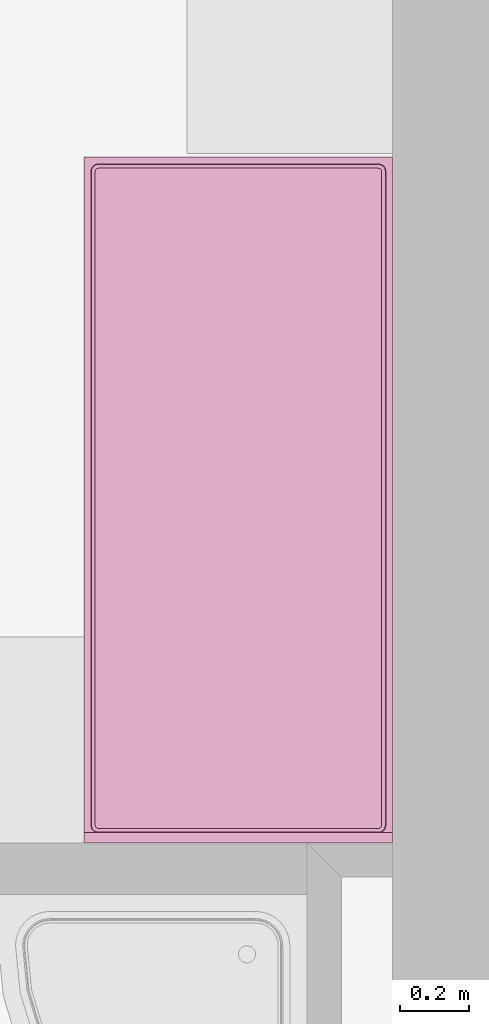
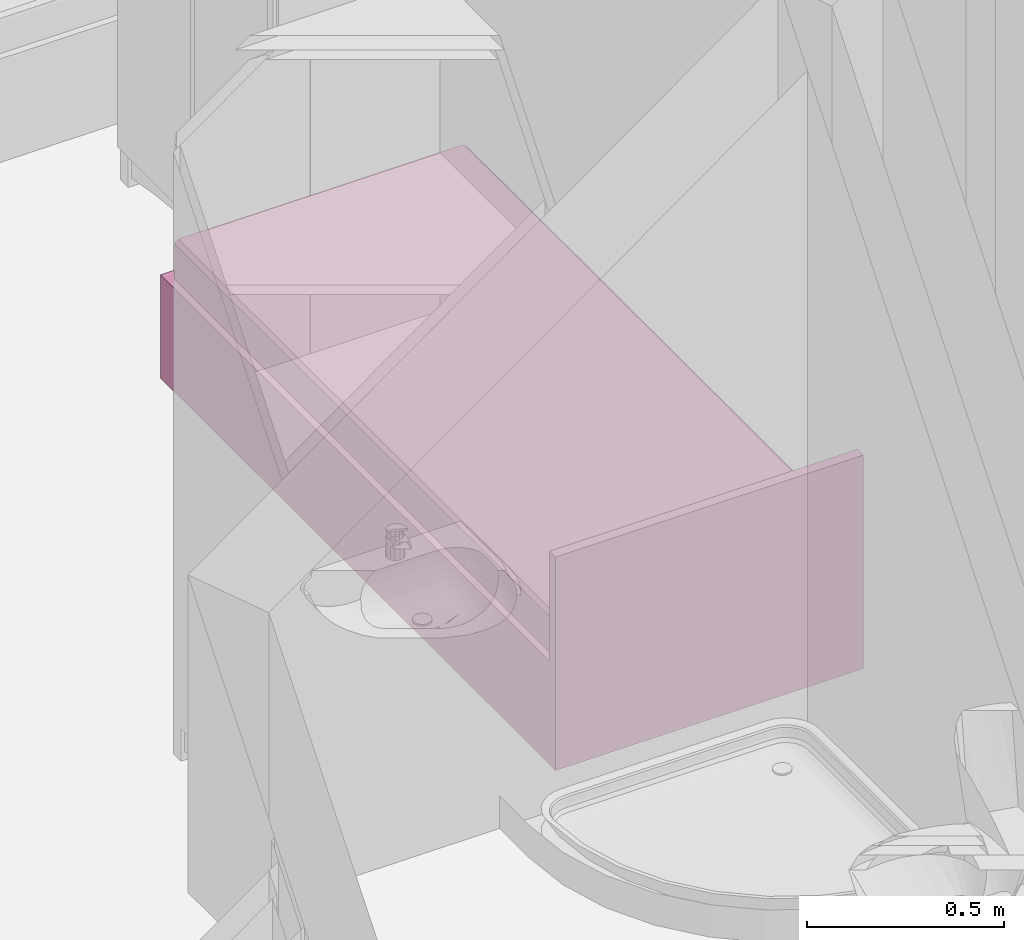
# One storey, part 141 of 172: 1 furnishing.
"""IFC2X3 building model written with IfcOpenShell, lengths in millimetres."""

import ifcopenshell
import ifcopenshell.guid

model = None  # the IFC model being written
_history = None  # IfcOwnerHistory: only IFC2X3 demands one
_inside = {}  # id of a spatial element -> (the spatial element, [elements in it])
_under = {}  # id of a project, library or spatial element -> (it, [spatial elements below it])
_declared = {}  # id of a project -> (the project, [libraries it declares])
_typed = {}  # id of a type object -> (the type object, [elements of that type])
_made_of = {}  # id of a material, layer set ... -> (it, [elements and type objects made of it])


def new_model(schema):
    """Start an empty IFC model of exactly this schema.

    Asked for "IFC4X3", IfcOpenShell would pick the latest addendum, in which some entities
    have other attributes; the version numbers below select the first issue.
    IFC2X3 requires an IfcOwnerHistory on every rooted entity: one is made here for all.
    """
    global model, _history
    if schema == "IFC4X3":
        model = ifcopenshell.file(schema_version=(4, 3, 0, 0))
    else:
        model = ifcopenshell.file(schema=schema)
    _inside.clear()
    _under.clear()
    _declared.clear()
    _typed.clear()
    _made_of.clear()
    _history = None
    if model.schema == "IFC2X3":
        org = make("IfcOrganization", Name="unknown")
        user = make(
            "IfcPersonAndOrganization",
            ThePerson=make("IfcPerson", FamilyName="unknown"),
            TheOrganization=org,
        )
        app = make(
            "IfcApplication",
            ApplicationDeveloper=org,
            Version="unknown",
            ApplicationFullName="unknown",
            ApplicationIdentifier="unknown",
        )
        _history = make(
            "IfcOwnerHistory",
            OwningUser=user,
            OwningApplication=app,
            ChangeAction="ADDED",
            CreationDate=0,
        )
    return model


def make(cls, **values):
    """One entity of the class cls with the attributes given. An attribute that is None is left unset."""
    return model.create_entity(
        cls, **{name: value for name, value in values.items() if value is not None}
    )


def entity(cls, *values):
    """Any entity or typed value of the class cls, its attributes in the order of the schema. None: left unset."""
    e = model.create_entity(cls)
    for i, value in enumerate(values):
        if value is not None:
            e[i] = value
    return e


def rooted(cls, **values):
    """An entity with a GlobalId (a new one), such as an element, a storey or a relation."""
    return make(cls, GlobalId=ifcopenshell.guid.new(), OwnerHistory=_history, **values)


def si_unit(unit_type, name, prefix=None):
    """IfcSIUnit, for example si_unit("LENGTHUNIT", "METRE", prefix="MILLI")."""
    return make("IfcSIUnit", UnitType=unit_type, Prefix=prefix, Name=name)


def converted_unit(unit_type, name, factor, base, dimensions=None, offset=None):
    """IfcConversionBasedUnit, such as the inch: factor (a typed value) times the base unit."""
    return make(
        "IfcConversionBasedUnit"
        if offset is None
        else "IfcConversionBasedUnitWithOffset",
        ConversionOffset=offset,
        Dimensions=None
        if dimensions is None
        else entity("IfcDimensionalExponents", *dimensions),
        UnitType=unit_type,
        Name=name,
        ConversionFactor=make(
            "IfcMeasureWithUnit", ValueComponent=factor, UnitComponent=base
        ),
    )


def money_unit(currency):
    """IfcMonetaryUnit."""
    return make("IfcMonetaryUnit", Currency=currency)


def assignment(units):
    """IfcUnitAssignment: the units of a project."""
    return None if units is None else make("IfcUnitAssignment", Units=units)


def point(xyz):
    """IfcCartesianPoint."""
    return None if xyz is None else make("IfcCartesianPoint", Coordinates=xyz)


def direction(xyz):
    """IfcDirection."""
    return None if xyz is None else make("IfcDirection", DirectionRatios=xyz)


def frame(location, z_axis=None, x_axis=None):
    """IfcAxis2Placement3D, a coordinate frame: its origin and axes. An axis left out is left unset."""
    return make(
        "IfcAxis2Placement3D",
        Location=point(location),
        Axis=direction(z_axis),
        RefDirection=direction(x_axis),
    )


def origin_with_axes():
    """The frame at (0, 0, 0) with the z axis (0, 0, 1) and the x axis (1, 0, 0) written out."""
    return frame((0.0, 0.0, 0.0), z_axis=(0.0, 0.0, 1.0), x_axis=(1.0, 0.0, 0.0))


def place(relative_to, where):
    """IfcLocalPlacement: puts the frame where relative to a parent placement (None: the world)."""
    return make(
        "IfcLocalPlacement", PlacementRelTo=relative_to, RelativePlacement=where
    )


def context(
    kind, dimensions, precision=None, world=None, true_north=None, identifier=None
):
    """IfcGeometricRepresentationContext, for example the 3D "Model" context."""
    return make(
        "IfcGeometricRepresentationContext",
        ContextIdentifier=identifier,
        ContextType=kind,
        CoordinateSpaceDimension=dimensions,
        Precision=precision,
        WorldCoordinateSystem=world,
        TrueNorth=true_north,
    )


def subcontext(parent, identifier, kind, view, scale=None):
    """IfcGeometricRepresentationSubContext, for example "Body" below "Model"."""
    return make(
        "IfcGeometricRepresentationSubContext",
        ContextIdentifier=identifier,
        ContextType=kind,
        ParentContext=parent,
        TargetScale=scale,
        TargetView=view,
    )


def project(units=None, contexts=None):
    """IfcProject with its units and contexts."""
    return rooted(
        "IfcProject",
        Name="project",
        RepresentationContexts=contexts,
        UnitsInContext=assignment(units),
    )


def spatial(cls, under=None, at=None, **own):
    """A site, building, storey or space (cls), placed at a placement, below another one or the project."""
    s = rooted(cls, ObjectPlacement=at, **own)
    if under is not None:
        _under.setdefault(under.id(), (under, []))[1].append(s)
    return s


def faces_of(points, faces, orient=None, outer=None):
    """IfcFace entities. A face is a list of loops; a loop is a list of indices into points, from 0.

    orient and outer hold one flag for each loop. By default every Orientation is true, the
    first loop of a face is its IfcFaceOuterBound and the others are IfcFaceBound.
    """
    made = []
    for i, loops in enumerate(faces):
        bounds = []
        for j, loop in enumerate(loops):
            is_outer = j == 0 if outer is None else outer[i][j]
            bounds.append(
                make(
                    "IfcFaceOuterBound" if is_outer else "IfcFaceBound",
                    Bound=make("IfcPolyLoop", Polygon=[points[k] for k in loop]),
                    Orientation=True if orient is None else orient[i][j],
                )
            )
        made.append(make("IfcFace", Bounds=bounds))
    return made


def faceted_brep(points, faces, orient=None, outer=None, voids=None):
    """IfcFacetedBrep: a solid bounded by flat faces; with voids (closed shells), ...WithVoids."""
    shared = [point(p) for p in points]
    hull = make("IfcClosedShell", CfsFaces=faces_of(shared, faces, orient, outer))
    if voids is None:
        return make("IfcFacetedBrep", Outer=hull)
    return make(
        "IfcFacetedBrepWithVoids",
        Outer=hull,
        Voids=[
            make(cls, CfsFaces=faces_of(shared, fs, o, b)) for cls, fs, o, b in voids
        ],
    )


def shape(context_of_items, identifier, shape_type, items):
    """IfcShapeRepresentation: the items that make up one representation, for example the "Body"."""
    return make(
        "IfcShapeRepresentation",
        ContextOfItems=context_of_items,
        RepresentationIdentifier=identifier,
        RepresentationType=shape_type,
        Items=items,
    )


def source(mapping_origin, context_of_items, identifier, shape_type, items):
    """IfcRepresentationMap: a shape defined once, which mapped items show again and again."""
    return make(
        "IfcRepresentationMap",
        MappingOrigin=mapping_origin,
        MappedRepresentation=shape(context_of_items, identifier, shape_type, items),
    )


def transform(
    local_origin,
    x_axis=None,
    y_axis=None,
    z_axis=None,
    scale=None,
    scale2=None,
    scale3=None,
    uniform=True,
):
    """IfcCartesianTransformationOperator3D, or its non-uniform kind. x_axis, y_axis, z_axis: its Axis1, 2, 3."""
    if uniform:
        return make(
            "IfcCartesianTransformationOperator3D",
            Axis1=direction(x_axis),
            Axis2=direction(y_axis),
            LocalOrigin=point(local_origin),
            Scale=scale,
            Axis3=direction(z_axis),
        )
    return make(
        "IfcCartesianTransformationOperator3DnonUniform",
        Axis1=direction(x_axis),
        Axis2=direction(y_axis),
        LocalOrigin=point(local_origin),
        Scale=scale,
        Axis3=direction(z_axis),
        Scale2=scale2,
        Scale3=scale3,
    )


def mapped(mapping_source, mapping_target):
    """IfcMappedItem: shows the shape of a source again, moved by a transform."""
    return make(
        "IfcMappedItem", MappingSource=mapping_source, MappingTarget=mapping_target
    )


def material(Name=None, Category=None):
    """IfcMaterial."""
    return make("IfcMaterial", Name=Name, Category=Category)


def material_list(materials):
    """IfcMaterialList."""
    return make("IfcMaterialList", Materials=materials)


def made_of(thing, what):
    """Note that an element or type object is made of a material, layer set ...; save() writes the relation."""
    if what is not None:
        _made_of.setdefault(what.id(), (what, []))[1].append(thing)
    return thing


def type_object(cls, material=None, **own):
    """A type object (cls), such as IfcWallType, which elements share."""
    return made_of(rooted(cls, **own), material)


def element(
    cls,
    number,
    at=None,
    inside=None,
    cuts=None,
    type_object=None,
    material=None,
    context=None,
    identifier="Body",
    shape_type=None,
    held_by="IfcProductDefinitionShape",
    body=None,
    shapes=None,
    **own,
):
    """One element of the class cls, such as IfcWall. Its Tag is "e" and its number.

    at: its placement. inside: the storey or other place that contains it. cuts: it is an
    opening in that element (IfcRelVoidsElement). A single representation is given by context,
    identifier, shape_type and body (its items); several are given by shapes. held_by: the class
    of the entity that holds the representations. save() writes the other relations.
    """
    e = rooted(cls, Tag="e%d" % number, ObjectPlacement=at, **own)
    if body is not None:
        shapes = [shape(context, identifier, shape_type, body)]
    if shapes is not None:
        e.Representation = make(held_by, Representations=shapes)
    if inside is not None:
        _inside.setdefault(inside.id(), (inside, []))[1].append(e)
    if cuts is not None:
        rooted(
            "IfcRelVoidsElement", RelatingBuildingElement=cuts, RelatedOpeningElement=e
        )
    if type_object is not None:
        _typed.setdefault(type_object.id(), (type_object, []))[1].append(e)
    return made_of(e, material)


def aggregate(whole, parts):
    """IfcRelAggregates: a whole, such as a stair, and the parts it consists of."""
    return rooted("IfcRelAggregates", RelatingObject=whole, RelatedObjects=parts)


def save(model, path):
    """Write the relations noted so far, then the file.

    IfcRelAggregates (storeys below a building ...), IfcRelContainedInSpatialStructure (elements
    in a storey), IfcRelDefinesByType, IfcRelAssociatesMaterial and IfcRelDeclares: one each for
    every whole, place, type object, material and project.
    """
    for whole, parts in _under.values():
        aggregate(whole, parts)
    for where, things in _inside.values():
        rooted(
            "IfcRelContainedInSpatialStructure",
            RelatedElements=things,
            RelatingStructure=where,
        )
    for kind, things in _typed.values():
        rooted("IfcRelDefinesByType", RelatedObjects=things, RelatingType=kind)
    for what, things in _made_of.values():
        rooted("IfcRelAssociatesMaterial", RelatedObjects=things, RelatingMaterial=what)
    for by, libraries in _declared.values():
        rooted("IfcRelDeclares", RelatingContext=by, RelatedDefinitions=libraries)
    model.write(path)


model = new_model("IFC2X3")

# Units and contexts
model_context = context("Model", 3, precision=1e-05, world=origin_with_axes(), true_north=direction((0.0, 1.0)))
body_context = subcontext(model_context, "Body", "Model", "MODEL_VIEW")
ifc_project = project(units=[si_unit("LENGTHUNIT", "METRE", prefix="MILLI"), si_unit("AREAUNIT", "SQUARE_METRE"), si_unit("VOLUMEUNIT", "CUBIC_METRE"), converted_unit("PLANEANGLEUNIT", "DEGREE", entity("IfcPlaneAngleMeasure", 0.0174532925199), si_unit("PLANEANGLEUNIT", "RADIAN"), dimensions=[0, 0, 0, 0, 0, 0, 0]), si_unit("SOLIDANGLEUNIT", "STERADIAN"), money_unit("USD"), converted_unit("TIMEUNIT", "Year", entity("IfcTimeMeasure", 31556926.0), si_unit("TIMEUNIT", "SECOND"), dimensions=[0, 0, 0, 0, 0, 0, 0]), si_unit("MASSUNIT", "GRAM"), si_unit("THERMODYNAMICTEMPERATUREUNIT", "DEGREE_CELSIUS"), si_unit("LUMINOUSINTENSITYUNIT", "LUMEN")], contexts=[model_context])

# Site, building, storey
site_placement = place(None, origin_with_axes())
site = spatial("IfcSite", under=ifc_project, at=site_placement, Name="Site", CompositionType="ELEMENT")
building_placement = place(site_placement, origin_with_axes())
building = spatial("IfcBuilding", under=site, at=building_placement, Name="Building", CompositionType="ELEMENT")
storey_placement = place(building_placement, frame((0.0, 0.0, 3200.0), z_axis=(0.0, 0.0, 1.0), x_axis=(1.0, 0.0, 0.0)))
storey = spatial("IfcBuildingStorey", under=building, at=storey_placement, Name="3KORRUS", CompositionType="ELEMENT", Elevation=3200.0)

# Furnishing
ifc_material = material(Name="Background")
ifc_material_list = material_list([ifc_material])
furnishing_element_type = type_object("IfcFurnishingElementType", Name="Bed 19")
shared_shape = source(origin_with_axes(), body_context, "Body", "Brep", [
    faceted_brep([(-900.0, 1970.0, 0.0), (-900.0, 2000.0, 0.0), (0.0, 2000.0, 0.0), (0.0, 1970.0, 0.0), (-900.0, 1970.0, 660.0), (-900.0, 2000.0, 660.0), (0.0, 2000.0, 660.0), (0.0, 1970.0, 660.0)], [[[0, 1, 2, 3]], [[0, 4, 5, 1]], [[1, 5, 6, 2]], [[2, 6, 7, 3]], [[3, 7, 4, 0]], [[7, 6, 5, 4]]]),
    faceted_brep([(-900.0, 0.0, 0.0), (-900.0, 1970.0, 0.0), (0.0, 1970.0, 0.0), (0.0, 0.0, 0.0), (-900.0, 0.0, 320.0), (-900.0, 1970.0, 320.0), (0.0, 1970.0, 320.0), (0.0, 0.0, 320.0)], [[[0, 1, 2, 3]], [[0, 4, 5, 1]], [[1, 5, 6, 2]], [[2, 6, 7, 3]], [[3, 7, 4, 0]], [[7, 6, 5, 4]]]),
    faceted_brep([(-905.0, 10.0, 30.0), (-905.0, 695.0, 30.0), (-900.0, 695.0, 30.0), (-900.0, 10.0, 30.0), (-905.0, 10.0, 290.0), (-905.0, 695.0, 290.0), (-900.0, 695.0, 290.0), (-900.0, 10.0, 290.0)], [[[0, 1, 2, 3]], [[0, 4, 5, 1]], [[1, 5, 6, 2]], [[2, 6, 7, 3]], [[3, 7, 4, 0]], [[7, 6, 5, 4]]]),
    faceted_brep([(-935.0, 307.5, 150.0), (-935.0, 397.5, 150.0), (-905.0, 397.5, 150.0), (-905.0, 307.5, 150.0), (-935.0, 307.5, 170.0), (-935.0, 397.5, 170.0), (-905.0, 397.5, 170.0), (-905.0, 307.5, 170.0)], [[[0, 1, 2, 3]], [[0, 4, 5, 1]], [[1, 5, 6, 2]], [[2, 6, 7, 3]], [[3, 7, 4, 0]], [[7, 6, 5, 4]]]),
    faceted_brep([(-905.0, 705.0, 30.0), (-905.0, 1390.0, 30.0), (-900.0, 1390.0, 30.0), (-900.0, 705.0, 30.0), (-905.0, 705.0, 290.0), (-905.0, 1390.0, 290.0), (-900.0, 1390.0, 290.0), (-900.0, 705.0, 290.0)], [[[0, 1, 2, 3]], [[0, 4, 5, 1]], [[1, 5, 6, 2]], [[2, 6, 7, 3]], [[3, 7, 4, 0]], [[7, 6, 5, 4]]]),
    faceted_brep([(-935.0, 1002.5, 150.0), (-935.0, 1092.5, 150.0), (-905.0, 1092.5, 150.0), (-905.0, 1002.5, 150.0), (-935.0, 1002.5, 170.0), (-935.0, 1092.5, 170.0), (-905.0, 1092.5, 170.0), (-905.0, 1002.5, 170.0)], [[[0, 1, 2, 3]], [[0, 4, 5, 1]], [[1, 5, 6, 2]], [[2, 6, 7, 3]], [[3, 7, 4, 0]], [[7, 6, 5, 4]]]),
    faceted_brep([(-20.0, 40.0, 350.0), (-21.522, 32.346, 350.0), (-25.858, 25.858, 350.0), (-32.346, 21.522, 350.0), (-40.0, 20.0, 350.0), (-860.0, 20.0, 350.0), (-867.654, 21.522, 350.0), (-874.142, 25.858, 350.0), (-878.478, 32.346, 350.0), (-880.0, 40.0, 350.0), (-880.0, 1950.0, 350.0), (-878.478, 1957.654, 350.0), (-874.142, 1964.142, 350.0), (-867.654, 1968.478, 350.0), (-860.0, 1970.0, 350.0), (-40.0, 1970.0, 350.0), (-32.346, 1968.478, 350.0), (-25.858, 1964.142, 350.0), (-21.522, 1957.654, 350.0), (-20.0, 1950.0, 350.0), (-20.0, 40.0, 420.0), (-21.522, 32.346, 420.0), (-25.858, 25.858, 420.0), (-32.346, 21.522, 420.0), (-40.0, 20.0, 420.0), (-860.0, 20.0, 420.0), (-867.654, 21.522, 420.0), (-874.142, 25.858, 420.0), (-878.478, 32.346, 420.0), (-880.0, 40.0, 420.0), (-880.0, 1950.0, 420.0), (-878.478, 1957.654, 420.0), (-874.142, 1964.142, 420.0), (-867.654, 1968.478, 420.0), (-860.0, 1970.0, 420.0), (-40.0, 1970.0, 420.0), (-32.346, 1968.478, 420.0), (-25.858, 1964.142, 420.0), (-21.522, 1957.654, 420.0), (-20.0, 1950.0, 420.0), (-21.522, 40.15, 427.654), (-22.956, 32.94, 427.654), (-26.955, 26.955, 427.654), (-32.94, 22.956, 427.654), (-40.15, 21.522, 427.654), (-859.85, 21.522, 427.654), (-867.06, 22.956, 427.654), (-873.045, 26.955, 427.654), (-877.044, 32.94, 427.654), (-878.478, 40.15, 427.654), (-878.478, 1949.85, 427.654), (-877.044, 1957.06, 427.654), (-873.045, 1963.045, 427.654), (-867.06, 1967.044, 427.654), (-859.85, 1968.478, 427.654), (-40.15, 1968.478, 427.654), (-32.94, 1967.044, 427.654), (-26.955, 1963.045, 427.654), (-22.956, 1957.06, 427.654), (-21.522, 1949.85, 427.654), (-32.346, 41.216, 438.478), (-33.152, 37.164, 438.478), (-34.759, 34.759, 438.478), (-37.164, 33.152, 438.478), (-41.216, 32.346, 438.478), (-858.784, 32.346, 438.478), (-862.836, 33.152, 438.478), (-865.241, 34.759, 438.478), (-866.848, 37.164, 438.478), (-867.654, 41.216, 438.478), (-867.654, 1948.784, 438.478), (-866.848, 1952.836, 438.478), (-865.241, 1955.241, 438.478), (-862.836, 1956.848, 438.478), (-858.784, 1957.654, 438.478), (-41.216, 1957.654, 438.478), (-37.164, 1956.848, 438.478), (-34.759, 1955.241, 438.478), (-33.152, 1952.836, 438.478), (-32.346, 1948.784, 438.478), (-40.0, 41.97, 440.0), (-40.327, 40.327, 440.0), (-40.0, 40.0, 439.924), (-41.97, 40.0, 440.0), (-858.03, 40.0, 440.0), (-859.673, 40.327, 440.0), (-860.0, 40.0, 439.924), (-860.0, 41.97, 440.0), (-860.0, 1948.03, 440.0), (-859.673, 1949.673, 440.0), (-860.0, 1950.0, 439.924), (-858.03, 1950.0, 440.0), (-41.97, 1950.0, 440.0), (-40.327, 1949.673, 440.0), (-40.0, 1950.0, 439.924), (-40.0, 1948.03, 440.0)], [[[0, 1, 2, 3, 4, 5, 6, 7, 8, 9, 10, 11, 12, 13, 14, 15, 16, 17, 18, 19]], [[0, 20, 21, 1]], [[1, 21, 22, 2]], [[2, 22, 23, 3]], [[3, 23, 24, 4]], [[4, 24, 25, 5]], [[5, 25, 26, 6]], [[6, 26, 27, 7]], [[7, 27, 28, 8]], [[8, 28, 29, 9]], [[9, 29, 30, 10]], [[10, 30, 31, 11]], [[11, 31, 32, 12]], [[12, 32, 33, 13]], [[13, 33, 34, 14]], [[14, 34, 35, 15]], [[15, 35, 36, 16]], [[16, 36, 37, 17]], [[17, 37, 38, 18]], [[18, 38, 39, 19]], [[19, 39, 20, 0]], [[20, 40, 41, 21]], [[21, 41, 42, 22]], [[22, 42, 43, 23]], [[23, 43, 44, 24]], [[24, 44, 45, 25]], [[25, 45, 46, 26]], [[26, 46, 47, 27]], [[27, 47, 48, 28]], [[28, 48, 49, 29]], [[29, 49, 50, 30]], [[30, 50, 51, 31]], [[31, 51, 52, 32]], [[32, 52, 53, 33]], [[33, 53, 54, 34]], [[34, 54, 55, 35]], [[35, 55, 56, 36]], [[36, 56, 57, 37]], [[37, 57, 58, 38]], [[38, 58, 59, 39]], [[39, 59, 40, 20]], [[40, 60, 61, 41]], [[41, 61, 62, 42]], [[42, 62, 63, 43]], [[43, 63, 64, 44]], [[44, 64, 65, 45]], [[45, 65, 66, 46]], [[46, 66, 67, 47]], [[47, 67, 68, 48]], [[48, 68, 69, 49]], [[49, 69, 70, 50]], [[50, 70, 71, 51]], [[51, 71, 72, 52]], [[52, 72, 73, 53]], [[53, 73, 74, 54]], [[54, 74, 75, 55]], [[55, 75, 76, 56]], [[56, 76, 77, 57]], [[57, 77, 78, 58]], [[58, 78, 79, 59]], [[59, 79, 60, 40]], [[60, 80, 81, 82, 61]], [[61, 82, 62]], [[62, 82, 63]], [[63, 82, 81, 83, 64]], [[64, 83, 84, 65]], [[65, 84, 85, 86, 66]], [[66, 86, 67]], [[67, 86, 68]], [[68, 86, 85, 87, 69]], [[69, 87, 88, 70]], [[70, 88, 89, 90, 71]], [[71, 90, 72]], [[72, 90, 73]], [[73, 90, 89, 91, 74]], [[74, 91, 92, 75]], [[75, 92, 93, 94, 76]], [[76, 94, 77]], [[77, 94, 78]], [[78, 94, 93, 95, 79]], [[79, 95, 80, 60]], [[95, 93, 92, 91, 89, 88, 87, 85, 84, 83, 81, 80]]]),
    faceted_brep([(-20.0, 40.0, 350.0), (-20.0, 1950.0, 350.0), (-21.522, 1957.654, 350.0), (-25.858, 1964.142, 350.0), (-32.346, 1968.478, 350.0), (-40.0, 1970.0, 350.0), (-860.0, 1970.0, 350.0), (-867.654, 1968.478, 350.0), (-874.142, 1964.142, 350.0), (-878.478, 1957.654, 350.0), (-880.0, 1950.0, 350.0), (-880.0, 40.0, 350.0), (-878.478, 32.346, 350.0), (-874.142, 25.858, 350.0), (-867.654, 21.522, 350.0), (-860.0, 20.0, 350.0), (-40.0, 20.0, 350.0), (-32.346, 21.522, 350.0), (-25.858, 25.858, 350.0), (-21.522, 32.346, 350.0), (-20.0, 40.0, 320.0), (-20.0, 1950.0, 320.0), (-21.522, 1957.654, 320.0), (-25.858, 1964.142, 320.0), (-32.346, 1968.478, 320.0), (-40.0, 1970.0, 320.0), (-860.0, 1970.0, 320.0), (-867.654, 1968.478, 320.0), (-874.142, 1964.142, 320.0), (-878.478, 1957.654, 320.0), (-880.0, 1950.0, 320.0), (-880.0, 40.0, 320.0), (-878.478, 32.346, 320.0), (-874.142, 25.858, 320.0), (-867.654, 21.522, 320.0), (-860.0, 20.0, 320.0), (-40.0, 20.0, 320.0), (-32.346, 21.522, 320.0), (-25.858, 25.858, 320.0), (-21.522, 32.346, 320.0)], [[[0, 1, 2, 3, 4, 5, 6, 7, 8, 9, 10, 11, 12, 13, 14, 15, 16, 17, 18, 19]], [[1, 0, 20, 21]], [[2, 1, 21, 22]], [[3, 2, 22, 23]], [[4, 3, 23, 24]], [[5, 4, 24, 25]], [[6, 5, 25, 26]], [[7, 6, 26, 27]], [[8, 7, 27, 28]], [[9, 8, 28, 29]], [[10, 9, 29, 30]], [[11, 10, 30, 31]], [[12, 11, 31, 32]], [[13, 12, 32, 33]], [[14, 13, 33, 34]], [[15, 14, 34, 35]], [[16, 15, 35, 36]], [[17, 16, 36, 37]], [[18, 17, 37, 38]], [[19, 18, 38, 39]], [[0, 19, 39, 20]], [[20, 39, 38, 37, 36, 35, 34, 33, 32, 31, 30, 29, 28, 27, 26, 25, 24, 23, 22, 21]]]),
])
furnishing_placement = place(storey_placement, frame((4809.70329669, -7217.37850445, 0.0), z_axis=(0.0, 0.0, 1.0), x_axis=(-1.0, 0.0, 0.0)))
element("IfcFurnishingElement", 1, at=furnishing_placement, inside=storey, type_object=furnishing_element_type, material=ifc_material_list, Name="FU - 013", context=body_context, shape_type="MappedRepresentation", body=[
    mapped(shared_shape, transform((0.0, 0.0, 0.0))),
])

save(model, "model.ifc")
